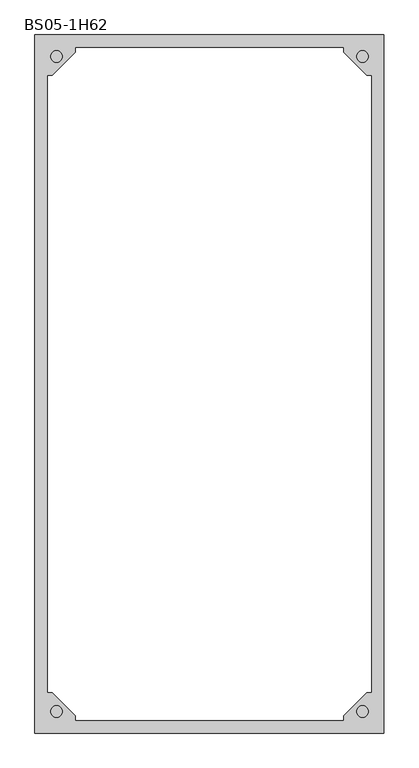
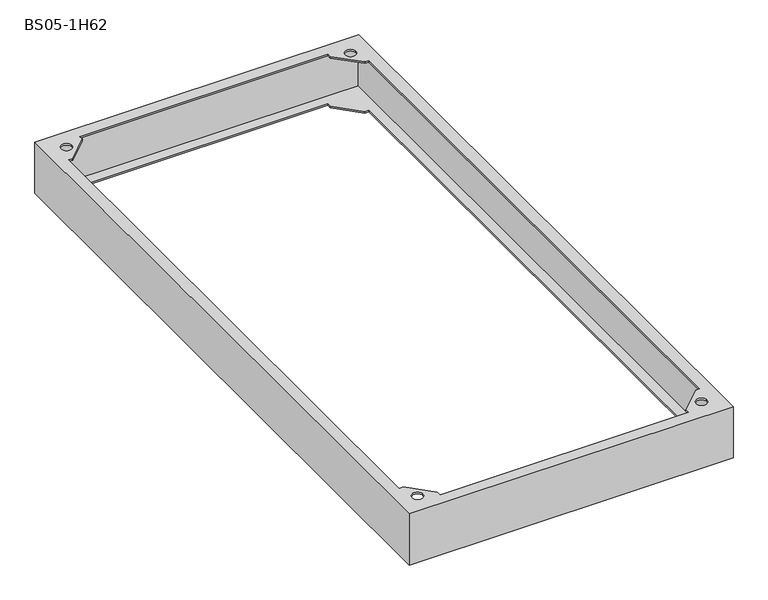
"""IFC4 building model written with IfcOpenShell, lengths in millimetres: proxy geometry, Цоколь для напольных шкафов : BS05-1H62."""

from ifc_helpers import new_model, si_unit, frame, origin, place, context, project, spatial, polyline, circle_curve, source, transform, mapped, element, save
from ifc_brep_helpers import plane_surface, revolved_surface, advanced_brep


def bs05_1h62_e8783a7f(model_context):
    return source(origin(), model_context, "Body", "AdvancedBrep", [
        advanced_brep(
        [(300.0, -600.0, 100.0), (300.0, -600.0, 97.0), (300.0, -600.0, 3.0), (300.0, -600.0, 0.0), (300.0, 600.0, 0.0), (300.0, 600.0, 3.0), (300.0, 600.0, 97.0), (300.0, 600.0, 100.0), (278.0, 530.0, 0.0), (278.0, -530.0, 0.0), (278.0, -530.0, 3.0), (278.0, 530.0, 3.0), (297.0, 597.0, 97.0), (297.0, 597.0, 3.0), (297.0, -597.0, 3.0), (297.0, -597.0, 97.0), (278.0, 530.0, 97.0), (278.0, -530.0, 97.0), (278.0, -530.0, 100.0), (278.0, 530.0, 100.0), (-300.0, -600.0, 100.0), (-300.0, -600.0, 97.0), (-300.0, -600.0, 3.0), (-300.0, -600.0, 0.0), (230.0, -578.0, 0.0), (-230.0, -578.0, 0.0), (-230.0, -578.0, 3.0), (230.0, -578.0, 3.0), (-297.0, -597.0, 3.0), (-297.0, -597.0, 97.0), (230.0, -578.0, 97.0), (-230.0, -578.0, 97.0), (-230.0, -578.0, 100.0), (230.0, -578.0, 100.0), (-300.0, 600.0, 100.0), (-300.0, 600.0, 97.0), (-300.0, 600.0, 3.0), (-300.0, 600.0, 0.0), (-278.0, -530.0, 0.0), (-278.0, 530.0, 0.0), (-278.0, 530.0, 3.0), (-278.0, -530.0, 3.0), (-297.0, 597.0, 3.0), (-297.0, 597.0, 97.0), (-278.0, -530.0, 97.0), (-278.0, 530.0, 97.0), (-278.0, 530.0, 100.0), (-278.0, -530.0, 100.0), (-230.0, -570.0, 100.0), (-270.0, -530.0, 100.0), (-270.0, 530.0, 100.0), (-230.0, 570.0, 100.0), (-230.0, 578.0, 100.0), (230.0, 578.0, 100.0), (230.0, 570.0, 100.0), (270.0, 530.0, 100.0), (270.0, -530.0, 100.0), (230.0, -570.0, 100.0), (-252.9289322, -562.9289322, 100.0), (-272.9289322, -562.9289322, 100.0), (272.9289322, -562.9289322, 100.0), (252.9289322, -562.9289322, 100.0), (-252.9289322, 562.9289322, 100.0), (-272.9289322, 562.9289322, 100.0), (272.9289322, 562.9289322, 100.0), (252.9289322, 562.9289322, 100.0), (270.0, 530.0, 0.0), (230.0, 570.0, 0.0), (230.0, 578.0, 0.0), (-230.0, 578.0, 0.0), (-230.0, 570.0, 0.0), (-270.0, 530.0, 0.0), (-270.0, -530.0, 0.0), (-230.0, -570.0, 0.0), (230.0, -570.0, 0.0), (270.0, -530.0, 0.0), (230.0, 578.0, 3.0), (-230.0, 578.0, 3.0), (270.0, -530.0, 3.0), (230.0, -570.0, 3.0), (-230.0, -570.0, 3.0), (-270.0, -530.0, 3.0), (-270.0, 530.0, 3.0), (-230.0, 570.0, 3.0), (230.0, 570.0, 3.0), (270.0, 530.0, 3.0), (-270.0, -530.0, 97.0), (-230.0, -570.0, 97.0), (230.0, -570.0, 97.0), (270.0, -530.0, 97.0), (270.0, 530.0, 97.0), (230.0, 570.0, 97.0), (230.0, 578.0, 97.0), (-230.0, 578.0, 97.0), (-230.0, 570.0, 97.0), (-270.0, 530.0, 97.0), (-252.9289322, -562.9289322, 97.0), (-272.9289322, -562.9289322, 97.0), (272.9289322, -562.9289322, 97.0), (252.9289322, -562.9289322, 97.0), (-252.9289322, 562.9289322, 97.0), (-272.9289322, 562.9289322, 97.0), (272.9289322, 562.9289322, 97.0), (252.9289322, 562.9289322, 97.0)],
        [
            (0, 1),
            (1, 2),
            (2, 3),
            (3, 4),
            (4, 5),
            (5, 6),
            (6, 7),
            (7, 0),
            (8, 9),
            (9, 10),
            (10, 11),
            (11, 8),
            (12, 13),
            (13, 14),
            (14, 15),
            (15, 12),
            (16, 17),
            (17, 18),
            (18, 19),
            (19, 16),
            (0, 20),
            (20, 21),
            (21, 22),
            (22, 23),
            (23, 3),
            (24, 25),
            (25, 26),
            (26, 27),
            (27, 24),
            (14, 28),
            (28, 29),
            (29, 15),
            (30, 31),
            (31, 32),
            (32, 33),
            (33, 30),
            (20, 34),
            (34, 35),
            (35, 36),
            (36, 37),
            (37, 23),
            (38, 39),
            (39, 40),
            (40, 41),
            (41, 38),
            (28, 42),
            (42, 43),
            (43, 29),
            (44, 45),
            (45, 46),
            (46, 47),
            (47, 44),
            (7, 34),
            (48, 49),
            (49, 47),
            (46, 50),
            (50, 51),
            (51, 52),
            (52, 53),
            (53, 54),
            (54, 55),
            (55, 19),
            (18, 56),
            (56, 57),
            (57, 33),
            (32, 48),
            (58, 59, circle_curve(frame((-262.9289322, -562.9289322, 100.0), z_axis=(0.0, 0.0, -1.0), x_axis=(-1.0, 0.0, 0.0)), 10.0)),
            (59, 58, circle_curve(frame((-262.9289322, -562.9289322, 100.0), z_axis=(0.0, 0.0, -1.0), x_axis=(-1.0, 0.0, 0.0)), 10.0)),
            (60, 61, circle_curve(frame((262.9289322, -562.9289322, 100.0), z_axis=(0.0, 0.0, -1.0), x_axis=(-1.0, 0.0, 0.0)), 10.0)),
            (61, 60, circle_curve(frame((262.9289322, -562.9289322, 100.0), z_axis=(0.0, 0.0, -1.0), x_axis=(-1.0, 0.0, 0.0)), 10.0)),
            (62, 63, circle_curve(frame((-262.9289322, 562.9289322, 100.0), z_axis=(0.0, 0.0, -1.0), x_axis=(-1.0, 0.0, 0.0)), 10.0)),
            (63, 62, circle_curve(frame((-262.9289322, 562.9289322, 100.0), z_axis=(0.0, 0.0, -1.0), x_axis=(-1.0, 0.0, 0.0)), 10.0)),
            (64, 65, circle_curve(frame((262.9289322, 562.9289322, 100.0), z_axis=(0.0, 0.0, -1.0), x_axis=(-1.0, 0.0, 0.0)), 10.0)),
            (65, 64, circle_curve(frame((262.9289322, 562.9289322, 100.0), z_axis=(0.0, 0.0, -1.0), x_axis=(-1.0, 0.0, 0.0)), 10.0)),
            (4, 37),
            (8, 66),
            (66, 67),
            (67, 68),
            (68, 69),
            (69, 70),
            (70, 71),
            (71, 39),
            (38, 72),
            (72, 73),
            (73, 25),
            (24, 74),
            (74, 75),
            (75, 9),
            (68, 76),
            (76, 77),
            (77, 69),
            (13, 42),
            (10, 78),
            (78, 79),
            (79, 27),
            (26, 80),
            (80, 81),
            (81, 41),
            (40, 82),
            (82, 83),
            (83, 77),
            (76, 84),
            (84, 85),
            (85, 11),
            (12, 43),
            (86, 87),
            (87, 31),
            (30, 88),
            (88, 89),
            (89, 17),
            (16, 90),
            (90, 91),
            (91, 92),
            (92, 93),
            (93, 94),
            (94, 95),
            (95, 45),
            (44, 86),
            (96, 97, circle_curve(frame((-262.9289322, -562.9289322, 97.0), z_axis=(0.0, 0.0, 1.0), x_axis=(-1.0, 0.0, 0.0)), 10.0)),
            (97, 96, circle_curve(frame((-262.9289322, -562.9289322, 97.0), z_axis=(0.0, 0.0, 1.0), x_axis=(-1.0, 0.0, 0.0)), 10.0)),
            (98, 99, circle_curve(frame((262.9289322, -562.9289322, 97.0), z_axis=(0.0, 0.0, 1.0), x_axis=(-1.0, 0.0, 0.0)), 10.0)),
            (99, 98, circle_curve(frame((262.9289322, -562.9289322, 97.0), z_axis=(0.0, 0.0, 1.0), x_axis=(-1.0, 0.0, 0.0)), 10.0)),
            (100, 101, circle_curve(frame((-262.9289322, 562.9289322, 97.0), z_axis=(0.0, 0.0, 1.0), x_axis=(-1.0, 0.0, 0.0)), 10.0)),
            (101, 100, circle_curve(frame((-262.9289322, 562.9289322, 97.0), z_axis=(0.0, 0.0, 1.0), x_axis=(-1.0, 0.0, 0.0)), 10.0)),
            (102, 103, circle_curve(frame((262.9289322, 562.9289322, 97.0), z_axis=(0.0, 0.0, 1.0), x_axis=(-1.0, 0.0, 0.0)), 10.0)),
            (103, 102, circle_curve(frame((262.9289322, 562.9289322, 97.0), z_axis=(0.0, 0.0, 1.0), x_axis=(-1.0, 0.0, 0.0)), 10.0)),
            (52, 93),
            (92, 53),
            (87, 48),
            (86, 49),
            (89, 56),
            (88, 57),
            (95, 50),
            (94, 51),
            (91, 54),
            (90, 55),
            (58, 96),
            (97, 59),
            (60, 98),
            (99, 61),
            (62, 100),
            (101, 63),
            (64, 102),
            (103, 65),
            (73, 80),
            (72, 81),
            (75, 78),
            (74, 79),
            (71, 82),
            (70, 83),
            (67, 84),
            (66, 85),
        ],
        [
            plane_surface(frame((300.0, 600.0, 100.0), z_axis=(1.0, 0.0, 0.0), x_axis=(0.0, -1.0, 0.0))),
            plane_surface(frame((278.0, 578.0, 0.0), z_axis=(-1.0, 0.0, 0.0), x_axis=(0.0, -1.0, 0.0))),
            plane_surface(frame((297.0, 597.0, 3.0), z_axis=(-1.0, 0.0, 0.0), x_axis=(0.0, -1.0, 0.0))),
            plane_surface(frame((278.0, 578.0, 97.0), z_axis=(-1.0, 0.0, 0.0), x_axis=(0.0, -1.0, 0.0))),
            plane_surface(frame((300.0, -600.0, 100.0), z_axis=(0.0, -1.0, 0.0), x_axis=(-1.0, 0.0, 0.0))),
            plane_surface(frame((278.0, -578.0, 0.0), z_axis=(0.0, 1.0, 0.0), x_axis=(-1.0, 0.0, 0.0))),
            plane_surface(frame((297.0, -597.0, 3.0), z_axis=(0.0, 1.0, 0.0), x_axis=(-1.0, 0.0, 0.0))),
            plane_surface(frame((278.0, -578.0, 97.0), z_axis=(0.0, 1.0, 0.0), x_axis=(-1.0, 0.0, 0.0))),
            plane_surface(frame((-300.0, -600.0, 100.0), z_axis=(-1.0, 0.0, 0.0), x_axis=(0.0, 1.0, 0.0))),
            plane_surface(frame((-278.0, -578.0, 0.0), z_axis=(1.0, 0.0, 0.0), x_axis=(0.0, 1.0, 0.0))),
            plane_surface(frame((-297.0, -597.0, 3.0), z_axis=(1.0, 0.0, 0.0), x_axis=(0.0, 1.0, 0.0))),
            plane_surface(frame((-278.0, -578.0, 97.0), z_axis=(1.0, 0.0, 0.0), x_axis=(0.0, 1.0, 0.0))),
            plane_surface(frame((-278.0, 578.0, 100.0), z_axis=(0.0, 0.0, 1.0), x_axis=(1.0, 0.0, 0.0))),
            plane_surface(frame((-300.0, 600.0, 100.0), z_axis=(0.0, 1.0, 0.0), x_axis=(1.0, 0.0, 0.0))),
            plane_surface(frame((-300.0, 600.0, 0.0), z_axis=(0.0, 0.0, -1.0), x_axis=(1.0, 0.0, 0.0))),
            plane_surface(frame((-278.0, 578.0, 0.0), z_axis=(0.0, -1.0, 0.0), x_axis=(1.0, 0.0, 0.0))),
            plane_surface(frame((-278.0, 578.0, 3.0), z_axis=(0.0, 0.0, 1.0), x_axis=(1.0, 0.0, 0.0))),
            plane_surface(frame((-297.0, 597.0, 3.0), z_axis=(0.0, -1.0, 0.0), x_axis=(1.0, 0.0, 0.0))),
            plane_surface(frame((-297.0, 597.0, 97.0), z_axis=(0.0, 0.0, -1.0), x_axis=(1.0, 0.0, 0.0))),
            plane_surface(frame((-278.0, 578.0, 97.0), z_axis=(0.0, -1.0, 0.0), x_axis=(1.0, 0.0, 0.0))),
            plane_surface(frame((-230.0, -600.0, 100.0), z_axis=(1.0, 0.0, 0.0), x_axis=(0.0, 0.0, -1.0))),
            plane_surface(frame((-230.0, -570.0, 100.0), z_axis=(0.7071067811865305, 0.7071067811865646, 0.0), x_axis=(0.0, 0.0, -1.0))),
            plane_surface(frame((-270.0, -530.0, 100.0), z_axis=(0.0, 1.0, 0.0), x_axis=(0.0, 0.0, -1.0))),
            plane_surface(frame((300.0, -530.0, 100.0), z_axis=(0.0, 1.0, 0.0), x_axis=(0.0, 0.0, -1.0))),
            plane_surface(frame((270.0, -530.0, 100.0), z_axis=(-0.7071067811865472, 0.7071067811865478, 0.0), x_axis=(0.0, 0.0, -1.0))),
            plane_surface(frame((230.0, -570.0, 100.0), z_axis=(-1.0, 0.0, 0.0), x_axis=(0.0, 0.0, -1.0))),
            plane_surface(frame((-300.0, 530.0, 100.0), z_axis=(0.0, -1.0, 0.0), x_axis=(0.0, 0.0, -1.0))),
            plane_surface(frame((-270.0, 530.0, 100.0), z_axis=(0.7071067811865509, -0.7071067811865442, 0.0), x_axis=(0.0, 0.0, -1.0))),
            plane_surface(frame((-230.0, 570.0, 100.0), z_axis=(1.0, 0.0, 0.0), x_axis=(0.0, 0.0, -1.0))),
            plane_surface(frame((230.0, 600.0, 100.0), z_axis=(-1.0, 0.0, 0.0), x_axis=(0.0, 0.0, -1.0))),
            plane_surface(frame((230.0, 570.0, 100.0), z_axis=(-0.7071067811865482, -0.707106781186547, 0.0), x_axis=(0.0, 0.0, -1.0))),
            plane_surface(frame((270.0, 530.0, 100.0), z_axis=(0.0, -1.0, 0.0), x_axis=(0.0, 0.0, -1.0))),
            revolved_surface(polyline([(-272.9289322, -562.9289322, 97.0), (-272.9289322, -562.9289322, 100.0)]), (-262.9289322, -562.9289322, 100.0), (0.0, 0.0, -1.0)),
            revolved_surface(polyline([(252.92893220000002, -562.9289322, 97.0), (252.92893220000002, -562.9289322, 100.0)]), (262.9289322, -562.9289322, 100.0), (0.0, 0.0, -1.0)),
            revolved_surface(polyline([(-272.9289322, 562.9289322, 97.0), (-272.9289322, 562.9289322, 100.0)]), (-262.9289322, 562.9289322, 100.0), (0.0, 0.0, -1.0)),
            revolved_surface(polyline([(252.92893220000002, 562.9289322, 97.0), (252.92893220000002, 562.9289322, 100.0)]), (262.9289322, 562.9289322, 100.0), (0.0, 0.0, -1.0)),
            plane_surface(frame((-230.0, -600.0, 3.0), z_axis=(1.0, 0.0, 0.0), x_axis=(0.0, 0.0, -1.0))),
            plane_surface(frame((-230.0, -570.0, 3.0), z_axis=(0.7071067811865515, 0.7071067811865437, 0.0), x_axis=(0.0, 0.0, -1.0))),
            plane_surface(frame((-270.0, -530.0, 3.0), z_axis=(0.0, 1.0, 0.0), x_axis=(0.0, 0.0, -1.0))),
            plane_surface(frame((300.0, -530.0, 3.0), z_axis=(0.0, 1.0, 0.0), x_axis=(0.0, 0.0, -1.0))),
            plane_surface(frame((270.0, -530.0, 3.0), z_axis=(-0.7071067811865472, 0.7071067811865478, 0.0), x_axis=(0.0, 0.0, -1.0))),
            plane_surface(frame((230.0, -570.0, 3.0), z_axis=(-1.0, 0.0, 0.0), x_axis=(0.0, 0.0, -1.0))),
            plane_surface(frame((-300.0, 530.0, 3.0), z_axis=(0.0, -1.0, 0.0), x_axis=(0.0, 0.0, -1.0))),
            plane_surface(frame((-270.0, 530.0, 3.0), z_axis=(0.7071067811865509, -0.7071067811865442, 0.0), x_axis=(0.0, 0.0, -1.0))),
            plane_surface(frame((-230.0, 570.0, 3.0), z_axis=(1.0, 0.0, 0.0), x_axis=(0.0, 0.0, -1.0))),
            plane_surface(frame((230.0, 600.0, 3.0), z_axis=(-1.0, 0.0, 0.0), x_axis=(0.0, 0.0, -1.0))),
            plane_surface(frame((230.0, 570.0, 3.0), z_axis=(-0.7071067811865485, -0.7071067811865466, 0.0), x_axis=(0.0, 0.0, -1.0))),
            plane_surface(frame((270.0, 530.0, 3.0), z_axis=(0.0, -1.0, 0.0), x_axis=(0.0, 0.0, -1.0))),
        ],
        [
            (0, [[1, 2, 3, 4, 5, 6, 7, 8]]),
            (1, [[9, 10, 11, 12]]),
            (2, [[13, 14, 15, 16]]),
            (3, [[17, 18, 19, 20]]),
            (4, [[-1, 21, 22, 23, 24, 25, -3, -2]]),
            (5, [[26, 27, 28, 29]]),
            (6, [[-15, 30, 31, 32]]),
            (7, [[33, 34, 35, 36]]),
            (8, [[-22, 37, 38, 39, 40, 41, -24, -23]]),
            (9, [[42, 43, 44, 45]]),
            (10, [[-31, 46, 47, 48]]),
            (11, [[49, 50, 51, 52]]),
            (12, [[-8, 53, -37, -21], [54, 55, -51, 56, 57, 58, 59, 60, 61, 62, -19, 63, 64, 65, -35, 66], [67, 68], [69, 70], [71, 72], [73, 74]]),
            (13, [[-38, -53, -7, -6, -5, 75, -40, -39]]),
            (14, [[-4, -25, -41, -75], [-9, 76, 77, 78, 79, 80, 81, 82, -42, 83, 84, 85, -26, 86, 87, 88]]),
            (15, [[-79, 89, 90, 91]]),
            (16, [[-14, 92, -46, -30], [-11, 93, 94, 95, -28, 96, 97, 98, -44, 99, 100, 101, -90, 102, 103, 104]]),
            (17, [[-92, -13, 105, -47]]),
            (18, [[-32, -48, -105, -16], [106, 107, -33, 108, 109, 110, -17, 111, 112, 113, 114, 115, 116, 117, -49, 118], [119, 120], [121, 122], [123, 124], [125, 126]]),
            (19, [[-59, 127, -114, 128]]),
            (20, [[129, -66, -34, -107]]),
            (21, [[-54, -129, -106, 130]]),
            (22, [[-130, -118, -52, -55]]),
            (23, [[131, -63, -18, -110]]),
            (24, [[-64, -131, -109, 132]]),
            (25, [[-132, -108, -36, -65]]),
            (26, [[133, -56, -50, -117]]),
            (27, [[-57, -133, -116, 134]]),
            (28, [[-134, -115, -127, -58]]),
            (29, [[135, -60, -128, -113]]),
            (30, [[-61, -135, -112, 136]]),
            (31, [[-136, -111, -20, -62]]),
            (32, [[-67, 137, -120, 138]]),
            (32, [[-68, -138, -119, -137]]),
            (33, [[-69, 139, -122, 140]]),
            (33, [[-70, -140, -121, -139]]),
            (34, [[-71, 141, -124, 142]]),
            (34, [[-72, -142, -123, -141]]),
            (35, [[-73, 143, -126, 144]]),
            (35, [[-74, -144, -125, -143]]),
            (36, [[145, -96, -27, -85]]),
            (37, [[-97, -145, -84, 146]]),
            (38, [[-146, -83, -45, -98]]),
            (39, [[147, -93, -10, -88]]),
            (40, [[-94, -147, -87, 148]]),
            (41, [[-148, -86, -29, -95]]),
            (42, [[149, -99, -43, -82]]),
            (43, [[-100, -149, -81, 150]]),
            (44, [[-150, -80, -91, -101]]),
            (45, [[151, -102, -89, -78]]),
            (46, [[-103, -151, -77, 152]]),
            (47, [[-152, -76, -12, -104]]),
        ],
    ),
    ])


if __name__ == "__main__":
    model = new_model("IFC4")
    model_context = context("Model", 3, world=origin())
    ifc_project = project(units=[si_unit("LENGTHUNIT", "METRE", prefix="MILLI")], contexts=[model_context])
    site = spatial("IfcSite", under=ifc_project)
    building = spatial("IfcBuilding", under=site)
    placement = place(None, origin())
    bs05_1h62_shape = bs05_1h62_e8783a7f(model_context)
    element("IfcBuildingElementProxy", 1, Name="Цоколь для напольных шкафов : BS05-1H62", ObjectType="Цоколь для напольных шкафов : BS05-1H62", at=placement, inside=building, context=model_context, shape_type="MappedRepresentation", body=[
        mapped(bs05_1h62_shape, transform((0.0, 0.0, 0.0), x_axis=(1.0, 0.0, 0.0), y_axis=(0.0, 1.0, 0.0), z_axis=(0.0, 0.0, 1.0))),
    ])
    save(model, "model.ifc")
